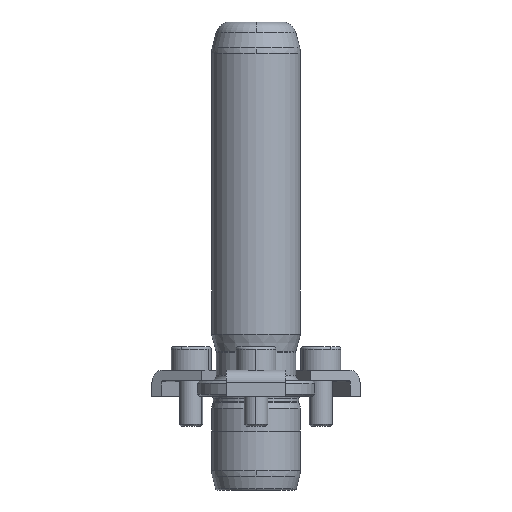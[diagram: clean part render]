
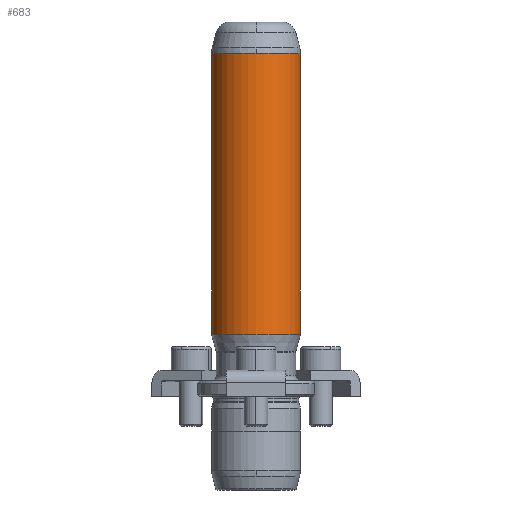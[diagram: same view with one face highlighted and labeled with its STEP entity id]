
A CAD part, front view. The second image highlights one B-rep face of the part: STEP entity #683.
In plain terms, the highlighted cylindrical face has radius 9.5 mm (diameter 19 mm), a partial arc.
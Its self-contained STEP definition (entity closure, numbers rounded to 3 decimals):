
#596=CARTESIAN_POINT('',(0.0,-9.5,73.342));
#597=VERTEX_POINT('',#596);
#624=CARTESIAN_POINT('',(-9.5,0.,73.342));
#625=VERTEX_POINT('',#624);
#633=CARTESIAN_POINT('',(0.0,0.,73.342));
#634=DIRECTION('',(0.0,0.0,1.0));
#635=DIRECTION('',(1.0,0.0,0.0));
#636=AXIS2_PLACEMENT_3D('',#633,#634,#635);
#637=CIRCLE('',#636,9.5);
#638=EDGE_CURVE('',#625,#597,#637,.T.);
#643=CARTESIAN_POINT('',(0.0,0.,43.321));
#644=DIRECTION('',(0.0,0.,1.0));
#645=DIRECTION('',(1.0,0.0,0.0));
#646=AXIS2_PLACEMENT_3D('',#643,#644,#645);
#647=CYLINDRICAL_SURFACE('',#646,9.5);
#648=CARTESIAN_POINT('',(9.5,0.,73.342));
#649=VERTEX_POINT('',#648);
#650=CARTESIAN_POINT('',(9.5,0.,13.3));
#651=VERTEX_POINT('',#650);
#652=CARTESIAN_POINT('',(9.5,0.,73.342));
#653=DIRECTION('',(0.0,0.0,-1.0));
#654=VECTOR('',#653,60.042);
#655=LINE('',#652,#654);
#656=EDGE_CURVE('',#649,#651,#655,.T.);
#657=ORIENTED_EDGE('',*,*,#656,.F.);
#658=CARTESIAN_POINT('',(0.0,0.,73.342));
#659=DIRECTION('',(0.0,0.0,1.0));
#660=DIRECTION('',(1.0,0.0,0.0));
#661=AXIS2_PLACEMENT_3D('',#658,#659,#660);
#662=CIRCLE('',#661,9.5);
#663=EDGE_CURVE('',#597,#649,#662,.T.);
#664=ORIENTED_EDGE('',*,*,#663,.F.);
#665=ORIENTED_EDGE('',*,*,#638,.F.);
#666=CARTESIAN_POINT('',(-9.5,0.,13.3));
#667=VERTEX_POINT('',#666);
#668=CARTESIAN_POINT('',(-9.5,0.,73.342));
#669=DIRECTION('',(0.0,0.0,-1.0));
#670=VECTOR('',#669,60.042);
#671=LINE('',#668,#670);
#672=EDGE_CURVE('',#625,#667,#671,.T.);
#673=ORIENTED_EDGE('',*,*,#672,.T.);
#674=CARTESIAN_POINT('',(0.0,0.,13.3));
#675=DIRECTION('',(0.0,0.0,1.0));
#676=DIRECTION('',(1.0,0.0,0.0));
#677=AXIS2_PLACEMENT_3D('',#674,#675,#676);
#678=CIRCLE('',#677,9.5);
#679=EDGE_CURVE('',#667,#651,#678,.T.);
#680=ORIENTED_EDGE('',*,*,#679,.T.);
#681=EDGE_LOOP('',(#657,#664,#665,#673,#680));
#682=FACE_OUTER_BOUND('',#681,.T.);
#683=ADVANCED_FACE('',(#682),#647,.T.);
